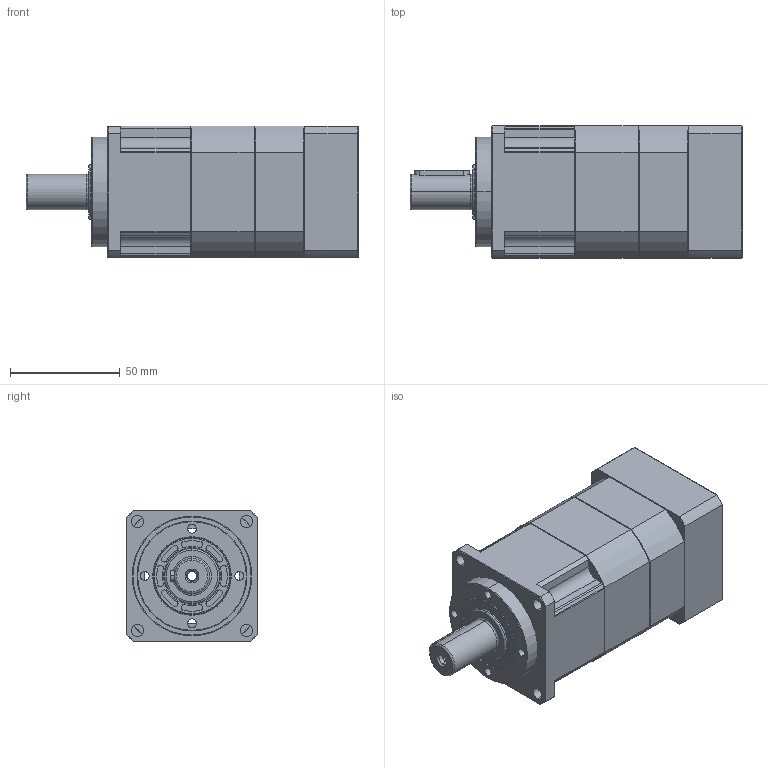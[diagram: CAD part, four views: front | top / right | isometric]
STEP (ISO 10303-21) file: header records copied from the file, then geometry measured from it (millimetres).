
FILE_DESCRIPTION (( 'STEP AP203' ), '1' );
FILE_NAME ('AKB60L2-10X5-50-14-35-M5-70.STEP', '2020-08-11T06:46:34', ( '微软用户' ), ( '微软中国' ), 'SwSTEP 2.0', 'SolidWorks 2008', '' );
FILE_SCHEMA (( 'CONFIG_CONTROL_DESIGN' ));
Length unit declared in the file: millimetre
Products named in the file (1): AKB60L2-10X5-50-14-35-M5-70
Bounding box: 151 x 60 x 60 mm (x, y, z)
Surface area: 47990.5 mm2 (no closed solid volume)
Topology: 0 solids, 24 shells, 466 faces, 1384 edges, 922 vertices
Faces by surface type: cylinder 187, plane 149, cone 106, torus 24
Entity records: 15973 total; most frequent: CARTESIAN_POINT 3386, DIRECTION 2775, ORIENTED_EDGE 2354, EDGE_CURVE 1376, AXIS2_PLACEMENT_3D 1069, VERTEX_POINT 922, VECTOR 637, LINE 637
